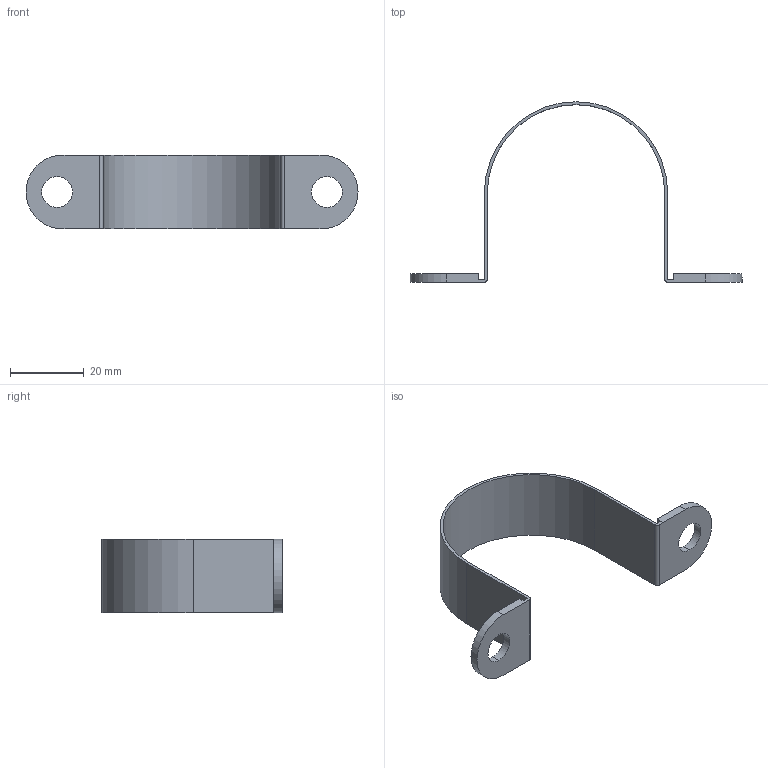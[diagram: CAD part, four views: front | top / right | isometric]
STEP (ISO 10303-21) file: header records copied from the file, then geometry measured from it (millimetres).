
FILE_DESCRIPTION (( 'STEP AP203' ), '1' );
FILE_NAME ('3D-R395_48_173762460.STEP', '2024-08-29T20:31:46', ( '' ), ( '' ), 'SwSTEP 2.0', 'SolidWorks 2024', '' );
FILE_SCHEMA (( 'CONFIG_CONTROL_DESIGN' ));
Length unit declared in the file: millimetre
Products named in the file (1): 3D-R395_48_173762460
Bounding box: 89.8 x 48.8 x 20 mm (x, y, z)
Volume: 3288.5 mm3; surface area: 6791.7 mm2
Topology: 1 solids, 1 shells, 26 faces, 72 edges, 48 vertices
Faces by surface type: plane 14, cylinder 12
Entity records: 925 total; most frequent: DIRECTION 150, CARTESIAN_POINT 147, ORIENTED_EDGE 144, EDGE_CURVE 72, AXIS2_PLACEMENT_3D 51, LINE 48, VECTOR 48, VERTEX_POINT 48
